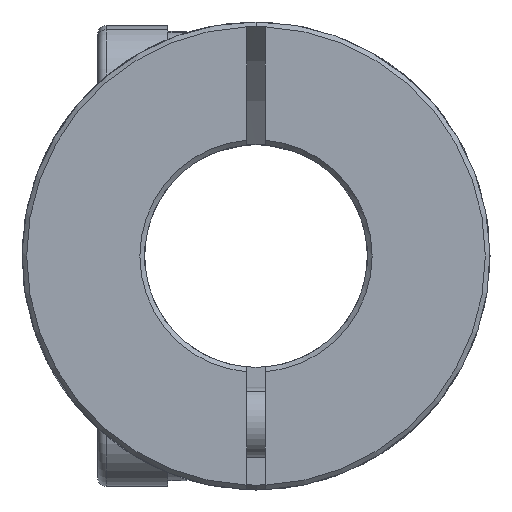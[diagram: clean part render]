
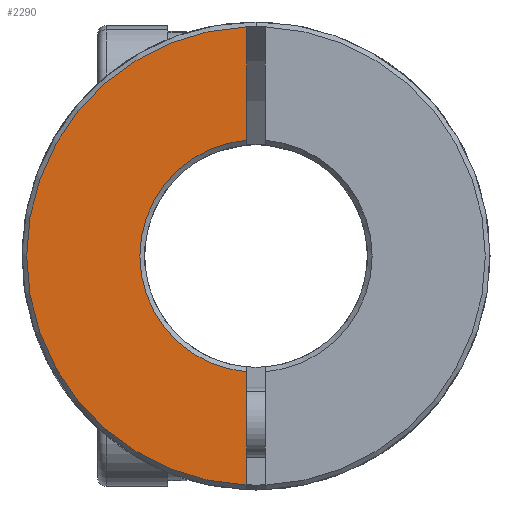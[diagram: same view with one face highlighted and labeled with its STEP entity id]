
A CAD part, front view. The second image highlights one B-rep face of the part: STEP entity #2290.
In plain terms, the highlighted planar face has unit normal (0, -1, 0).
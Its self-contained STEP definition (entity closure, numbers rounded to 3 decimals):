
#64 = CARTESIAN_POINT ( 'NONE',  ( -0.4, -17.5, 0. ) ) ;
#85 = DIRECTION ( 'NONE',  ( 0., 0., -1. ) ) ;
#183 = DIRECTION ( 'NONE',  ( 0., 1., 0. ) ) ;
#272 = AXIS2_PLACEMENT_3D ( 'NONE', #5315, #183, #4362 ) ;
#311 = ORIENTED_EDGE ( 'NONE', *, *, #4872, .F. ) ;
#568 = CIRCLE ( 'NONE', #4293, 4.963 ) ;
#586 = CIRCLE ( 'NONE', #2737, 9.8 ) ;
#1394 = PLANE ( 'NONE',  #272 ) ;
#1623 = VECTOR ( 'NONE', #85, 1000. ) ;
#1679 = DIRECTION ( 'NONE',  ( 0., 0., 1. ) ) ;
#1844 = CARTESIAN_POINT ( 'NONE',  ( -0.4, -17.5, -4.946 ) ) ;
#2248 = DIRECTION ( 'NONE',  ( 0., 1., 0. ) ) ;
#2290 = ADVANCED_FACE ( 'NONE', ( #5969 ), #1394, .F. ) ;
#2301 = EDGE_CURVE ( 'NONE', #7291, #5856, #4632, .T. ) ;
#2439 = ORIENTED_EDGE ( 'NONE', *, *, #3210, .T. ) ;
#2600 = VERTEX_POINT ( 'NONE', #6716 ) ;
#2675 = CARTESIAN_POINT ( 'NONE',  ( -0.4, -17.5, 9.792 ) ) ;
#2737 = AXIS2_PLACEMENT_3D ( 'NONE', #5812, #3009, #6411 ) ;
#3009 = DIRECTION ( 'NONE',  ( 0., -1., 0. ) ) ;
#3210 = EDGE_CURVE ( 'NONE', #7291, #2600, #568, .T. ) ;
#3638 = VERTEX_POINT ( 'NONE', #2675 ) ;
#3825 = DIRECTION ( 'NONE',  ( 0., 0., -1. ) ) ;
#4292 = CARTESIAN_POINT ( 'NONE',  ( -0.4, -17.5, 0. ) ) ;
#4293 = AXIS2_PLACEMENT_3D ( 'NONE', #7354, #2248, #1679 ) ;
#4305 = EDGE_CURVE ( 'NONE', #3638, #5856, #586, .T. ) ;
#4362 = DIRECTION ( 'NONE',  ( 0., 0., 1. ) ) ;
#4632 = LINE ( 'NONE', #4292, #5522 ) ;
#4814 = ORIENTED_EDGE ( 'NONE', *, *, #2301, .F. ) ;
#4872 = EDGE_CURVE ( 'NONE', #3638, #2600, #5390, .T. ) ;
#4978 = ORIENTED_EDGE ( 'NONE', *, *, #4305, .T. ) ;
#5315 = CARTESIAN_POINT ( 'NONE',  ( 0., -17.5, 0. ) ) ;
#5390 = LINE ( 'NONE', #64, #1623 ) ;
#5522 = VECTOR ( 'NONE', #3825, 1000. ) ;
#5709 = CARTESIAN_POINT ( 'NONE',  ( -0.4, -17.5, -9.792 ) ) ;
#5812 = CARTESIAN_POINT ( 'NONE',  ( 0., -17.5, 0. ) ) ;
#5856 = VERTEX_POINT ( 'NONE', #5709 ) ;
#5969 = FACE_OUTER_BOUND ( 'NONE', #6178, .T. ) ;
#6178 = EDGE_LOOP ( 'NONE', ( #311, #4978, #4814, #2439 ) ) ;
#6411 = DIRECTION ( 'NONE',  ( 0., 0., 1. ) ) ;
#6716 = CARTESIAN_POINT ( 'NONE',  ( -0.4, -17.5, 4.946 ) ) ;
#7291 = VERTEX_POINT ( 'NONE', #1844 ) ;
#7354 = CARTESIAN_POINT ( 'NONE',  ( 0., -17.5, 0. ) ) ;
